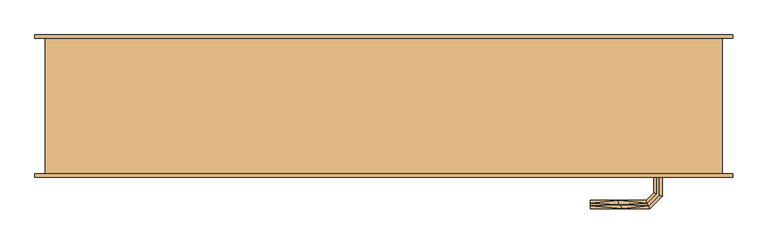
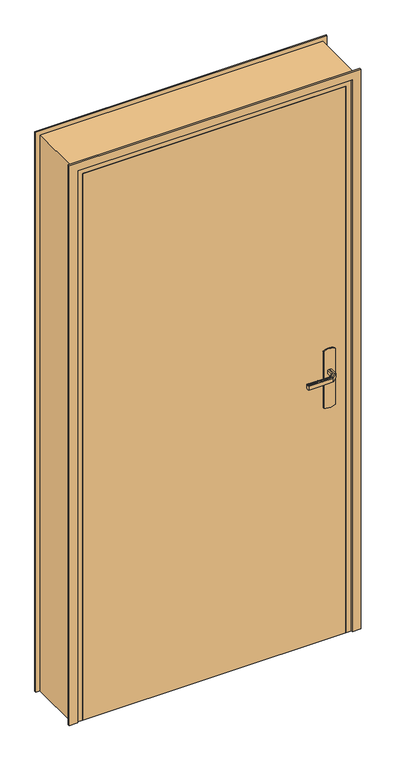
"""IFC4 building model written with IfcOpenShell, lengths in millimetres: door geometry, Portes - Int. Simple - PP (0.89m x 2.04m)."""

from ifc_helpers import new_model, si_unit, point, frame, frame_2d, origin, origin_with_axes, place, context, project, spatial, polyline, circle_curve, trimmed, segment, composite_curve, outline, extrude, faceted_brep, source, transform, mapped, element, save


def door_440ebcd5(model_context):
    return source(origin(), model_context, "Body", "SolidModel", [
        extrude(outline(composite_curve([segment(polyline([(1080.0, 955.0), (870.0, 955.0)]), True, "CONTINUOUS"), segment(trimmed(circle_curve(frame_2d((904.6410162, 975.0)), 40.0), [point((870.0, 955.0))], [point((870.0, 995.0))], False, "CARTESIAN"), True, "CONTINUOUS"), segment(polyline([(870.0, 995.0), (1080.0, 995.0)]), True, "CONTINUOUS"), segment(trimmed(circle_curve(frame_2d((1045.3589838, 975.0)), 40.0), [point((1080.0, 995.0))], [point((1080.0, 955.0))], False, "CARTESIAN"), True, "CONTINUOUS")], self_intersect=False)), frame((0.0, 40.0, 0.0), z_axis=(0.0, 1.0, 0.0), x_axis=(0.0, 0.0, 1.0)), (0.0, 0.0, 1.0), 5.0),
        extrude(outline(polyline([(1035.0, 40.0), (1035.0, 0.0), (105.0, 0.0), (105.0, 40.0), (1035.0, 40.0)])), origin_with_axes(), (0.0, 0.0, 1.0), 2040.0),
        extrude(outline(polyline([(0.0, 1055.0), (0.0, 1085.0), (2090.0, 1085.0), (2090.0, 55.0), (0.0, 55.0), (0.0, 85.0), (2060.0, 85.0), (2060.0, 1055.0), (0.0, 1055.0)])), frame((0.0, 200.0, 0.0), z_axis=(0.0, 1.0, 0.0), x_axis=(0.0, 0.0, 1.0)), (0.0, 0.0, 1.0), 5.0),
        extrude(outline(polyline([(0.0, 1055.0), (0.0, 1085.0), (2090.0, 1085.0), (2090.0, 55.0), (0.0, 55.0), (0.0, 85.0), (2060.0, 85.0), (2060.0, 1055.0), (0.0, 1055.0)])), frame((0.0, -5.0, 0.0), z_axis=(0.0, 1.0, 0.0), x_axis=(0.0, 0.0, 1.0)), (0.0, 0.0, 1.0), 5.0),
        faceted_brep([(969.0, -5.0, 1007.0), (972.9747013, -5.0, 1007.7804408), (977.0252987, -5.0, 1007.7804408), (981.0, -5.0, 1007.0), (981.0, -5.0, 993.0), (977.0252987, -5.0, 992.2195592), (972.9747013, -5.0, 992.2195592), (969.0, -5.0, 993.0), (981.0, -32.6509507, 1007.0), (977.0252987, -31.0045755, 1007.7804408), (972.9747013, -29.3267632, 1007.7804408), (959.2986025, -43.002862, 1007.7804408), (960.9764148, -47.0534593, 1007.7804408), (969.0, -27.680388, 1007.0), (969.0, -27.680388, 993.0), (972.9747013, -29.3267632, 992.2195592), (977.0252987, -31.0045755, 992.2195592), (960.9764148, -47.0534593, 992.2195592), (959.2986025, -43.002862, 992.2195592), (981.0, -32.6509507, 993.0), (962.62279, -51.0281607, 1007.0), (957.6522273, -39.0281607, 1007.0), (957.6522273, -39.0281607, 993.0), (962.62279, -51.0281607, 993.0), (874.9813594, -51.0281607, 993.0), (874.9813594, -51.0281607, 1007.0), (874.9813594, -47.0534593, 1007.7804408), (874.9813594, -43.002862, 1007.7804408), (874.9813594, -39.0281607, 1007.0), (874.9813594, -39.0281607, 993.0), (874.9813594, -43.002862, 992.2195592), (874.9813594, -47.0534593, 992.2195592), (922.6923028, -51.0281607, 1007.0), (917.1399809, -45.0281607, 1007.8786868), (916.3167933, -39.0281607, 1007.0), (916.3167933, -39.0281607, 993.0), (917.1399811, -45.0281608, 992.1213132), (922.6923104, -51.0281607, 993.0)], [[[0, 1, 2, 3, 4, 5, 6, 7]], [[8, 3, 2, 9]], [[9, 2, 1, 10, 11, 12]], [[10, 1, 0, 13]], [[7, 14, 13, 0]], [[7, 6, 15, 14]], [[15, 6, 5, 16, 17, 18]], [[5, 4, 19, 16]], [[3, 8, 19, 4]], [[20, 8, 9, 12]], [[11, 10, 13, 21]], [[14, 22, 21, 13]], [[22, 14, 15, 18]], [[17, 16, 19, 23]], [[8, 20, 23, 19]], [[24, 25, 26, 27, 28, 29, 30, 31]], [[32, 33, 26]], [[25, 32, 26]], [[12, 32, 20]], [[33, 11, 34]], [[21, 34, 11]], [[34, 28, 27]], [[26, 33, 27]], [[27, 33, 34]], [[12, 33, 32]], [[12, 11, 33]], [[34, 21, 22, 35, 29, 28]], [[35, 36, 30]], [[37, 31, 36]], [[22, 18, 35]], [[35, 30, 29]], [[24, 31, 37]], [[23, 37, 17]], [[37, 36, 17]], [[17, 36, 18]], [[18, 36, 35]], [[31, 30, 36]], [[37, 23, 20, 32, 25, 24]]]),
        faceted_brep([(969.0, 45.0, 993.0), (972.9747013, 45.0, 992.2195592), (977.0252987, 45.0, 992.2195592), (981.0, 45.0, 993.0), (981.0, 45.0, 1007.0), (977.0252987, 45.0, 1007.7804408), (972.9747013, 45.0, 1007.7804408), (969.0, 45.0, 1007.0), (969.0, 67.4852045, 1007.0), (969.0, 67.4852045, 993.0), (972.9747013, 69.1315797, 1007.7804408), (977.0252987, 70.8093921, 1007.7804408), (960.8389062, 86.9957845, 1007.7804408), (959.1610938, 82.9451872, 1007.7804408), (981.0, 72.4557673, 1007.0), (981.0, 72.4557673, 993.0), (977.0252987, 70.8093921, 992.2195592), (972.9747013, 69.1315797, 992.2195592), (959.1610938, 82.9451872, 992.2195592), (960.8389062, 86.9957845, 992.2195592), (957.5147186, 78.9704859, 1007.0), (957.5147186, 78.9704859, 993.0), (962.4852814, 90.9704859, 1007.0), (962.4852814, 90.9704859, 993.0), (874.9542163, 78.9704859, 1007.0), (874.9542163, 82.9451872, 1007.7804408), (874.9542163, 86.9957845, 1007.7804408), (874.9542163, 90.9704859, 1007.0), (874.9542163, 90.9704859, 993.0), (874.9542163, 86.9957845, 992.2195592), (874.9542163, 82.9451872, 992.2195592), (874.9542163, 78.9704859, 993.0), (916.2344794, 78.9704859, 993.0), (916.2344675, 78.9704859, 1007.0), (917.0576551, 84.9704859, 1007.8786868), (922.5547942, 90.9704859, 1007.0), (922.5547957, 90.9704859, 993.0), (917.0576549, 84.9704858, 992.1213132)], [[[0, 1, 2, 3, 4, 5, 6, 7]], [[7, 8, 9, 0]], [[7, 6, 10, 8]], [[10, 6, 5, 11, 12, 13]], [[5, 4, 14, 11]], [[15, 14, 4, 3]], [[15, 3, 2, 16]], [[16, 2, 1, 17, 18, 19]], [[17, 1, 0, 9]], [[8, 20, 21, 9]], [[20, 8, 10, 13]], [[11, 14, 22, 12]], [[15, 23, 22, 14]], [[23, 15, 16, 19]], [[18, 17, 9, 21]], [[24, 25, 26, 27, 28, 29, 30, 31]], [[32, 21, 20, 33, 24, 31]], [[33, 34, 25]], [[35, 26, 34]], [[20, 13, 33]], [[33, 25, 24]], [[27, 26, 35]], [[22, 35, 12]], [[35, 34, 12]], [[12, 34, 13]], [[13, 34, 33]], [[26, 25, 34]], [[35, 22, 23, 36, 28, 27]], [[36, 37, 29]], [[28, 36, 29]], [[19, 36, 23]], [[37, 18, 32]], [[21, 32, 18]], [[32, 31, 30]], [[29, 37, 30]], [[30, 37, 32]], [[19, 37, 36]], [[19, 18, 37]]]),
        faceted_brep([(1070.0, 200.0, 0.0), (1070.0, 0.0, 0.0), (1035.0, 0.0, 0.0), (1035.0, 40.0, 0.0), (1020.0, 40.0, 0.0), (1020.0, 200.0, 0.0), (1070.0, 200.0, 2075.0), (1070.0, 0.0, 2075.0), (1020.0, 200.0, 2025.0), (120.0, 200.0, 2025.0), (120.0, 200.0, 0.0), (70.0, 200.0, 0.0), (70.0, 200.0, 2075.0), (1020.0, 40.0, 2025.0), (1035.0, 40.0, 2040.0), (105.0, 40.0, 2040.0), (105.0, 40.0, 0.0), (120.0, 40.0, 0.0), (120.0, 40.0, 2025.0), (1035.0, 0.0, 2040.0), (70.0, 0.0, 2075.0), (70.0, 0.0, 0.0), (105.0, 0.0, 0.0), (105.0, 0.0, 2040.0)], [[[0, 1, 2, 3, 4, 5]], [[1, 0, 6, 7]], [[0, 5, 8, 9, 10, 11, 12, 6]], [[5, 4, 13, 8]], [[4, 3, 14, 15, 16, 17, 18, 13]], [[3, 2, 19, 14]], [[2, 1, 7, 20, 21, 22, 23, 19]], [[20, 12, 11, 21]], [[22, 21, 11, 10, 17, 16]], [[9, 18, 17, 10]], [[15, 23, 22, 16]], [[7, 6, 12, 20]], [[8, 13, 18, 9]], [[14, 19, 23, 15]]]),
        extrude(outline(composite_curve([segment(polyline([(870.0, 995.0), (1080.0, 995.0)]), True, "CONTINUOUS"), segment(trimmed(circle_curve(frame_2d((1045.3589838, 975.0)), 40.0), [point((1080.0, 995.0))], [point((1080.0, 955.0))], False, "CARTESIAN"), True, "CONTINUOUS"), segment(polyline([(1080.0, 955.0), (870.0, 955.0)]), True, "CONTINUOUS"), segment(trimmed(circle_curve(frame_2d((904.6410162, 975.0)), 40.0), [point((870.0, 955.0))], [point((870.0, 995.0))], False, "CARTESIAN"), True, "CONTINUOUS")], self_intersect=False)), frame((0.0, -5.0, 0.0), z_axis=(0.0, 1.0, 0.0), x_axis=(0.0, 0.0, 1.0)), (0.0, 0.0, 1.0), 5.0),
    ])


if __name__ == "__main__":
    model = new_model("IFC4")
    model_context = context("Model", 3, world=origin())
    ifc_project = project(units=[si_unit("LENGTHUNIT", "METRE", prefix="MILLI")], contexts=[model_context])
    site = spatial("IfcSite", under=ifc_project)
    building = spatial("IfcBuilding", under=site)
    placement = place(None, origin())
    door_shape = door_440ebcd5(model_context)
    element("IfcDoor", 1, ObjectType="Portes - Int. Simple - PP (0.89m x 2.04m)", at=placement, inside=building, context=model_context, shape_type="MappedRepresentation", body=[
        mapped(door_shape, transform((0.0, 0.0, 0.0), x_axis=(1.0, 0.0, 0.0), y_axis=(0.0, 1.0, 0.0), z_axis=(0.0, 0.0, 1.0))),
    ])
    save(model, "model.ifc")
